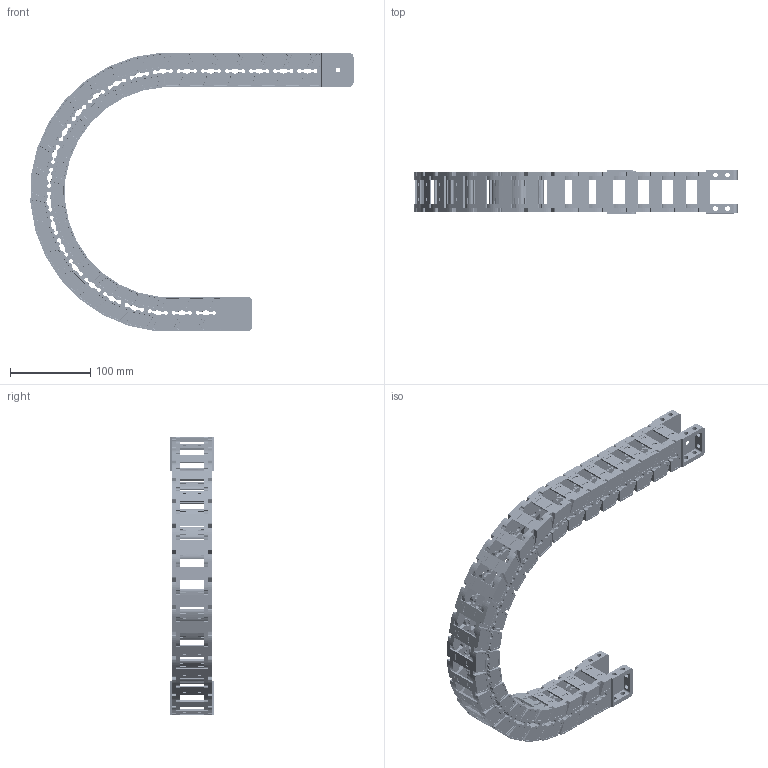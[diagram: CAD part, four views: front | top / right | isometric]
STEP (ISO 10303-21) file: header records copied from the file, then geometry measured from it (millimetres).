
FILE_DESCRIPTION((''),'2;1');
FILE_NAME('JY-35X30-R150_ASM','2025-01-05T19:58:46',('admin'),(''),'CREO PARAMETRIC BY PTC INC, 2021023','CREO PARAMETRIC BY PTC INC, 2021023','');
FILE_SCHEMA(('CONFIG_CONTROL_DESIGN'));
Length unit declared in the file: millimetre
Products named in the file (11): 35XL-L; YP; 35XL-R; ASM0001_ASM; 35-LTT-A-L; 35-LTT-A-R; 35XL-LTT-A_ASM; 35-LTT-B-L; 35-LTT-B-R; 35XL-LTT-B_ASM; JY-35X30-R150_ASM
Assembly tree (37 placements, depth 3):
  JY-35X30-R150_ASM
    ASM0001_ASM  x23
      35XL-L
      YP
      35XL-R
    35XL-LTT-A_ASM
      35-LTT-A-L
      YP  x2
      35-LTT-A-R
    35XL-LTT-B_ASM
      35-LTT-B-L
      YP  x2
      35-LTT-B-R
Bounding box: 402.36 x 54 x 347.06 mm (x, y, z)
Volume: 608042.1 mm3; surface area: 351524.8 mm2
Topology: 100 solids, 100 shells, 8160 faces, 24472 edges, 16520 vertices
Faces by surface type: plane 4618, cylinder 2678, cone 528, extrusion 192, bspline 144
Entity records: 27906 total; most frequent: CARTESIAN_POINT 6170, ORIENTED_EDGE 4640, DIRECTION 4369, EDGE_CURVE 2320, VERTEX_POINT 1568, AXIS2_PLACEMENT_3D 1476, VECTOR 1417, LINE 1401
